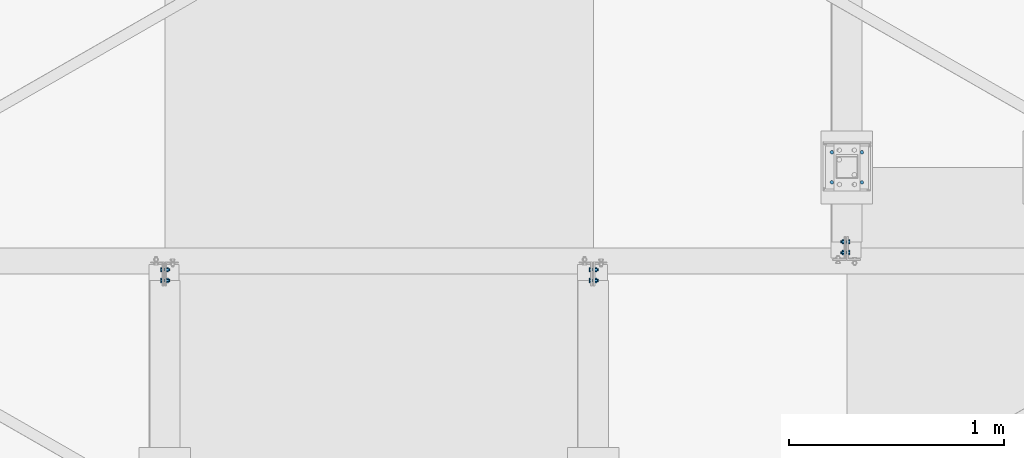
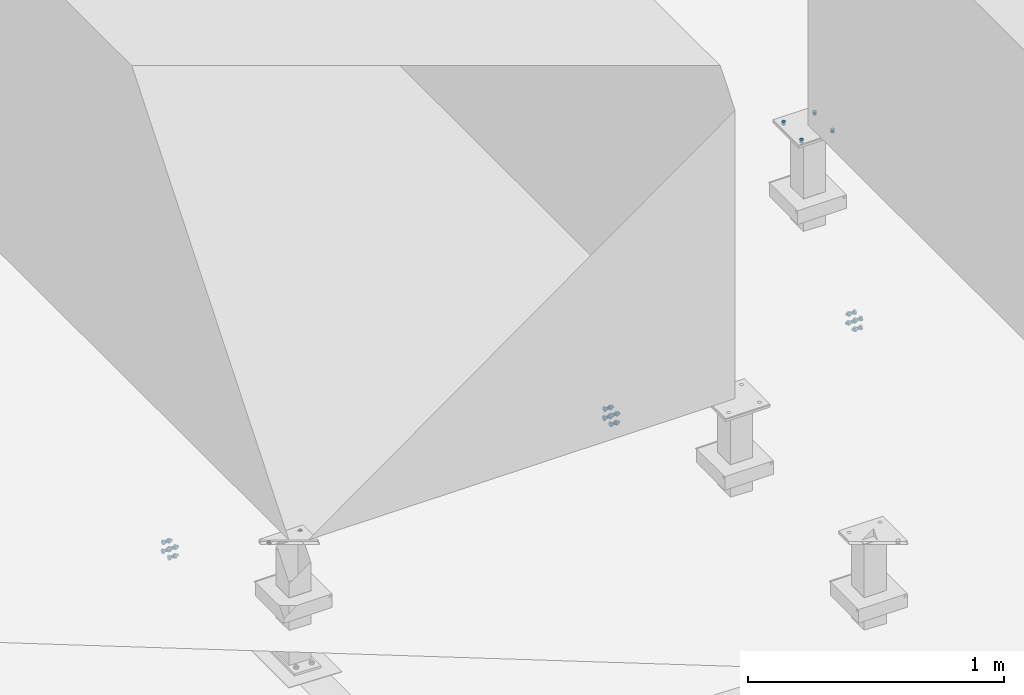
# One storey, part 383 of 3134: 4 mechanical fasteners, 4 elements without a shape of their own.
"""IFC2X3 building model written with IfcOpenShell, lengths in millimetres."""

from ifc_helpers import new_model, si_unit, frame, origin_with_axes, place, context, subcontext, project, spatial, faceted_brep, source, transform, mapped, material, type_object, element, aggregate, save


model = new_model("IFC2X3")

# Units and contexts
model_context = context("Model", 3, precision=1e-05, world=origin_with_axes())
body_context = subcontext(model_context, "Body", "Model", "MODEL_VIEW")
ifc_project = project(units=[si_unit("LENGTHUNIT", "METRE", prefix="MILLI"), si_unit("AREAUNIT", "SQUARE_METRE"), si_unit("VOLUMEUNIT", "CUBIC_METRE"), si_unit("MASSUNIT", "GRAM", prefix="KILO"), si_unit("TIMEUNIT", "SECOND"), si_unit("PLANEANGLEUNIT", "RADIAN"), si_unit("SOLIDANGLEUNIT", "STERADIAN"), si_unit("THERMODYNAMICTEMPERATUREUNIT", "DEGREE_CELSIUS"), si_unit("LUMINOUSINTENSITYUNIT", "LUMEN")], contexts=[model_context])

# Site, building, storey
site_placement = place(None, origin_with_axes())
site = spatial("IfcSite", under=ifc_project, at=site_placement, CompositionType="ELEMENT")
building_placement = place(site_placement, origin_with_axes())
building = spatial("IfcBuilding", under=site, at=building_placement, Name="Undefined", CompositionType="ELEMENT")
storey_placement = place(building_placement, origin_with_axes())
storey = spatial("IfcBuildingStorey", under=building, at=storey_placement, Name="Undefined", CompositionType="ELEMENT", Elevation=0.0)

# Assembly, mechanical fastener
assembly_1_placement = place(storey_placement, origin_with_axes())
assembly_1 = element("IfcElementAssembly", 1, at=assembly_1_placement, inside=storey, AssemblyPlace="NOTDEFINED", PredefinedType="RIGID_FRAME")
ifc_material = material(Name="8.8")
mechanical_fastener_type = type_object("IfcMechanicalFastenerType", Name="Bolt assembly")
shared_shape_1 = source(origin_with_axes(), body_context, "Body", "Brep", [
    faceted_brep([(10.9696551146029, -14.250187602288, 0.0), (5.48482755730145, -14.250187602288, 9.5), (-5.48482755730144, -14.250187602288, 9.5), (-10.9696551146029, -14.250187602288, 1.34339530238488e-15), (-5.48482755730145, -14.250187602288, -9.5), (5.48482755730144, -14.250187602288, -9.50000000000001), (5.48482755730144, -6.25018760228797, -9.50000000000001), (-5.48482755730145, -6.25018760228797, -9.5), (-10.9696551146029, -6.25018760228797, 1.34339530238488e-15), (-5.48482755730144, -6.25018760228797, 9.5), (5.48482755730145, -6.25018760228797, 9.5), (10.9696551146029, -6.25018760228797, 0.0), (6.0, -6.25018760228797, 0.0), (5.19615242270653, -6.25018760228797, 3.00000000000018), (2.99999999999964, -6.25018760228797, 5.19615242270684), (-6.21801588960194e-13, -6.25018760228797, 6.0), (-3.00000000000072, -6.25018760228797, 5.19615242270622), (-5.19615242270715, -6.25018760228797, 2.9999999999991), (-6.0, -6.25018760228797, -1.24360317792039e-12), (-5.19615242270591, -6.25018760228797, -3.00000000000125), (-2.99999999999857, -6.25018760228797, -5.19615242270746), (1.85874342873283e-12, -6.25018760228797, -6.0), (3.00000000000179, -6.25018760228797, -5.1961524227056), (5.19615242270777, -6.25018760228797, -2.99999999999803), (5.19615242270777, 28.749812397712, -2.99999999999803), (3.00000000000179, 28.749812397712, -5.1961524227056), (1.85874342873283e-12, 28.749812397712, -6.0), (-2.99999999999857, 28.749812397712, -5.19615242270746), (-5.19615242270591, 28.749812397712, -3.00000000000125), (-6.0, 28.749812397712, -1.24360317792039e-12), (-5.19615242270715, 28.749812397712, 2.9999999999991), (-3.00000000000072, 28.749812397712, 5.19615242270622), (-6.21801588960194e-13, 28.749812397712, 6.0), (2.99999999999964, 28.749812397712, 5.19615242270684), (5.19615242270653, 28.749812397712, 3.00000000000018), (6.0, 28.749812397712, 0.0), (10.9696551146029, 11.2575524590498, 0.0), (5.48482755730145, 11.2575524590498, 9.5), (-5.48482755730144, 11.2575524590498, 9.5), (-10.9696551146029, 11.2575524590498, 1.34339530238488e-15), (-5.48482755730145, 11.2575524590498, -9.5), (5.48482755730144, 11.2575524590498, -9.50000000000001), (5.48482755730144, 21.2575524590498, -9.50000000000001), (-5.48482755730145, 21.2575524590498, -9.5), (-10.9696551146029, 21.2575524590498, 1.34339530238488e-15), (-5.48482755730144, 21.2575524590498, 9.5), (5.48482755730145, 21.2575524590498, 9.5), (10.9696551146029, 21.2575524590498, 0.0)], [[[0, 1, 2, 3, 4, 5]], [[6, 7, 8, 9, 10, 11]], [[0, 11, 10, 1]], [[1, 10, 9, 2]], [[2, 9, 8, 3]], [[3, 8, 7, 4]], [[4, 7, 6, 5]], [[5, 6, 11, 0]], [[12, 13, 14, 15, 16, 17, 18, 19, 20, 21, 22, 23]], [[24, 25, 26, 27, 28, 29, 30, 31, 32, 33, 34, 35]], [[12, 35, 34, 13]], [[13, 34, 33, 14]], [[14, 33, 32, 15]], [[15, 32, 31, 16]], [[16, 31, 30, 17]], [[17, 30, 29, 18]], [[18, 29, 28, 19]], [[19, 28, 27, 20]], [[20, 27, 26, 21]], [[21, 26, 25, 22]], [[22, 25, 24, 23]], [[23, 24, 35, 12]], [[36, 37, 38, 39, 40, 41]], [[42, 43, 44, 45, 46, 47]], [[36, 47, 46, 37]], [[37, 46, 45, 38]], [[38, 45, 44, 39]], [[39, 44, 43, 40]], [[40, 43, 42, 41]], [[41, 42, 47, 36]]]),
    faceted_brep([(7.0, 5.15755245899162, 0.0), (6.06217782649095, 5.15755245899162, 3.50000000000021), (3.49999999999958, 5.15755245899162, 6.06217782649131), (-7.25435187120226e-13, 5.15755245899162, 7.0), (-3.50000000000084, 5.15755245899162, 6.06217782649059), (-6.06217782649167, 5.15755245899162, 3.49999999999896), (-7.0, 5.15755245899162, -1.45087037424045e-12), (-6.06217782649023, 5.15755245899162, -3.50000000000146), (-3.49999999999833, 5.15755245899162, -6.06217782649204), (2.1685340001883e-12, 5.15755245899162, -7.0), (3.50000000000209, 5.15755245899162, -6.06217782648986), (6.0621778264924, 5.15755245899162, -3.4999999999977), (6.0621778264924, 11.2575524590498, -3.4999999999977), (3.50000000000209, 11.2575524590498, -6.06217782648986), (2.1685340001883e-12, 11.2575524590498, -7.0), (-3.49999999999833, 11.2575524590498, -6.06217782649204), (-6.06217782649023, 11.2575524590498, -3.50000000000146), (-7.0, 11.2575524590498, -1.45087037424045e-12), (-6.06217782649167, 11.2575524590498, 3.49999999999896), (-3.50000000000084, 11.2575524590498, 6.06217782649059), (-7.25435187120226e-13, 11.2575524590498, 7.0), (3.49999999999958, 11.2575524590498, 6.06217782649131), (6.06217782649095, 11.2575524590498, 3.50000000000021), (7.0, 11.2575524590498, 0.0), (7.0, -6.15018760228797, 0.0), (6.06217782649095, -6.15018760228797, 3.50000000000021), (3.49999999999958, -6.15018760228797, 6.06217782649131), (-7.25435187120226e-13, -6.15018760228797, 7.0), (-3.50000000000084, -6.15018760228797, 6.06217782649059), (-6.06217782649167, -6.15018760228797, 3.49999999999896), (-7.0, -6.15018760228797, -1.45087037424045e-12), (-6.06217782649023, -6.15018760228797, -3.50000000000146), (-3.49999999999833, -6.15018760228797, -6.06217782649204), (2.1685340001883e-12, -6.15018760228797, -7.0), (3.50000000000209, -6.15018760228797, -6.06217782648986), (6.0621778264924, -6.15018760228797, -3.4999999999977), (6.0621778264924, -0.150187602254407, -3.4999999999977), (3.50000000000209, -0.150187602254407, -6.06217782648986), (2.1685340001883e-12, -0.150187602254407, -7.0), (-3.49999999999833, -0.150187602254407, -6.06217782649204), (-6.06217782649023, -0.150187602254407, -3.50000000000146), (-7.0, -0.150187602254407, -1.45087037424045e-12), (-6.06217782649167, -0.150187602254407, 3.49999999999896), (-3.50000000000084, -0.150187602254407, 6.06217782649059), (-7.25435187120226e-13, -0.150187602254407, 7.0), (3.49999999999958, -0.150187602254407, 6.06217782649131), (6.06217782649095, -0.150187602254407, 3.50000000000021), (7.0, -0.150187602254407, 0.0), (7.0, -0.249172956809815, 0.0), (6.06217782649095, -0.249172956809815, 3.50000000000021), (3.49999999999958, -0.249172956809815, 6.06217782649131), (-7.25435187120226e-13, -0.249172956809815, 7.0), (-3.50000000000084, -0.249172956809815, 6.06217782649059), (-6.06217782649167, -0.249172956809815, 3.49999999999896), (-7.0, -0.249172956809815, -1.45087037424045e-12), (-6.06217782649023, -0.249172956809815, -3.50000000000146), (-3.49999999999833, -0.249172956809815, -6.06217782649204), (2.1685340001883e-12, -0.249172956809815, -7.0), (3.50000000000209, -0.249172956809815, -6.06217782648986), (6.0621778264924, -0.249172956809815, -3.4999999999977), (6.0621778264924, 5.25082704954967, -3.4999999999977), (3.50000000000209, 5.25082704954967, -6.06217782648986), (2.1685340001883e-12, 5.25082704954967, -7.0), (-3.49999999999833, 5.25082704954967, -6.06217782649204), (-6.06217782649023, 5.25082704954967, -3.50000000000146), (-7.0, 5.25082704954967, -1.45087037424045e-12), (-6.06217782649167, 5.25082704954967, 3.49999999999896), (-3.50000000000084, 5.25082704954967, 6.06217782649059), (-7.25435187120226e-13, 5.25082704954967, 7.0), (3.49999999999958, 5.25082704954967, 6.06217782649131), (6.06217782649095, 5.25082704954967, 3.50000000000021), (7.0, 5.25082704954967, 0.0)], [[[0, 1, 2, 3, 4, 5, 6, 7, 8, 9, 10, 11]], [[12, 13, 14, 15, 16, 17, 18, 19, 20, 21, 22, 23]], [[0, 23, 22, 1]], [[1, 22, 21, 2]], [[2, 21, 20, 3]], [[3, 20, 19, 4]], [[4, 19, 18, 5]], [[5, 18, 17, 6]], [[6, 17, 16, 7]], [[7, 16, 15, 8]], [[8, 15, 14, 9]], [[9, 14, 13, 10]], [[10, 13, 12, 11]], [[11, 12, 23, 0]], [[24, 25, 26, 27, 28, 29, 30, 31, 32, 33, 34, 35]], [[36, 37, 38, 39, 40, 41, 42, 43, 44, 45, 46, 47]], [[24, 47, 46, 25]], [[25, 46, 45, 26]], [[26, 45, 44, 27]], [[27, 44, 43, 28]], [[28, 43, 42, 29]], [[29, 42, 41, 30]], [[30, 41, 40, 31]], [[31, 40, 39, 32]], [[32, 39, 38, 33]], [[33, 38, 37, 34]], [[34, 37, 36, 35]], [[35, 36, 47, 24]], [[48, 49, 50, 51, 52, 53, 54, 55, 56, 57, 58, 59]], [[60, 61, 62, 63, 64, 65, 66, 67, 68, 69, 70, 71]], [[48, 71, 70, 49]], [[49, 70, 69, 50]], [[50, 69, 68, 51]], [[51, 68, 67, 52]], [[52, 67, 66, 53]], [[53, 66, 65, 54]], [[54, 65, 64, 55]], [[55, 64, 63, 56]], [[56, 63, 62, 57]], [[57, 62, 61, 58]], [[58, 61, 60, 59]], [[59, 60, 71, 48]]]),
])
mechanical_fastener_1_placement = place(assembly_1_placement, frame((77004.0608079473, 21923.34, 3772.66212573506), z_axis=(0.0309396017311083, 0.0, 0.999521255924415), x_axis=(0.0, 1.0, 0.0)))
mechanical_fastener_1 = element("IfcMechanicalFastener", 2, at=mechanical_fastener_1_placement, type_object=mechanical_fastener_type, material=ifc_material, Name="Bolt assembly", NominalDiameter=12.0, NominalLength=35.0, context=body_context, shape_type="MappedRepresentation", body=[
    mapped(shared_shape_1, transform((0.0, 0.0, -21.0))),
    mapped(shared_shape_1, transform((50.0, -1.01863406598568e-10, -20.9999999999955))),
    mapped(shared_shape_1, transform((0.0, 0.0, 21.0))),
    mapped(shared_shape_1, transform((50.0, 1.30967237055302e-10, 20.9999999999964))),
])
aggregate(assembly_1, [mechanical_fastener_1])

assembly_2_placement = place(storey_placement, origin_with_axes())
assembly_2 = element("IfcElementAssembly", 3, at=assembly_2_placement, inside=storey, AssemblyPlace="NOTDEFINED", PredefinedType="RIGID_FRAME")
shared_shape_2 = source(origin_with_axes(), body_context, "Body", "Brep", [
    faceted_brep([(10.9696551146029, -19.2575524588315, 0.0), (5.48482755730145, -19.2575524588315, 9.5), (-5.48482755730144, -19.2575524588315, 9.5), (-10.9696551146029, -19.2575524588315, 1.34339530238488e-15), (-5.48482755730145, -19.2575524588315, -9.5), (5.48482755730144, -19.2575524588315, -9.50000000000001), (5.48482755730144, -11.2575524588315, -9.50000000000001), (-5.48482755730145, -11.2575524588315, -9.5), (-10.9696551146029, -11.2575524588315, 1.34339530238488e-15), (-5.48482755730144, -11.2575524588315, 9.5), (5.48482755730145, -11.2575524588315, 9.5), (10.9696551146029, -11.2575524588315, 0.0), (6.0, -11.2575524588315, 0.0), (5.19615242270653, -11.2575524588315, 3.00000000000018), (2.99999999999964, -11.2575524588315, 5.19615242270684), (-6.21801588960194e-13, -11.2575524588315, 6.0), (-3.00000000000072, -11.2575524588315, 5.19615242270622), (-5.19615242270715, -11.2575524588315, 2.9999999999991), (-6.0, -11.2575524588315, -1.24360317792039e-12), (-5.19615242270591, -11.2575524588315, -3.00000000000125), (-2.99999999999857, -11.2575524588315, -5.19615242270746), (1.85874342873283e-12, -11.2575524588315, -6.0), (3.00000000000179, -11.2575524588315, -5.1961524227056), (5.19615242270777, -11.2575524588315, -2.99999999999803), (5.19615242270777, 23.7424475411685, -2.99999999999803), (3.00000000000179, 23.7424475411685, -5.1961524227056), (1.85874342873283e-12, 23.7424475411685, -6.0), (-2.99999999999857, 23.7424475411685, -5.19615242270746), (-5.19615242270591, 23.7424475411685, -3.00000000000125), (-6.0, 23.7424475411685, -1.24360317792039e-12), (-5.19615242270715, 23.7424475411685, 2.9999999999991), (-3.00000000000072, 23.7424475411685, 5.19615242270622), (-6.21801588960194e-13, 23.7424475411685, 6.0), (2.99999999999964, 23.7424475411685, 5.19615242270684), (5.19615242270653, 23.7424475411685, 3.00000000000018), (6.0, 23.7424475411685, 0.0), (10.9696551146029, 6.25018760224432, 0.0), (5.48482755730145, 6.25018760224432, 9.5), (-5.48482755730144, 6.25018760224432, 9.5), (-10.9696551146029, 6.25018760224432, 1.34339530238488e-15), (-5.48482755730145, 6.25018760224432, -9.5), (5.48482755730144, 6.25018760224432, -9.50000000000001), (5.48482755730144, 16.2501876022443, -9.50000000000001), (-5.48482755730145, 16.2501876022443, -9.5), (-10.9696551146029, 16.2501876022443, 1.34339530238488e-15), (-5.48482755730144, 16.2501876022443, 9.5), (5.48482755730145, 16.2501876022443, 9.5), (10.9696551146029, 16.2501876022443, 0.0)], [[[0, 1, 2, 3, 4, 5]], [[6, 7, 8, 9, 10, 11]], [[0, 11, 10, 1]], [[1, 10, 9, 2]], [[2, 9, 8, 3]], [[3, 8, 7, 4]], [[4, 7, 6, 5]], [[5, 6, 11, 0]], [[12, 13, 14, 15, 16, 17, 18, 19, 20, 21, 22, 23]], [[24, 25, 26, 27, 28, 29, 30, 31, 32, 33, 34, 35]], [[12, 35, 34, 13]], [[13, 34, 33, 14]], [[14, 33, 32, 15]], [[15, 32, 31, 16]], [[16, 31, 30, 17]], [[17, 30, 29, 18]], [[18, 29, 28, 19]], [[19, 28, 27, 20]], [[20, 27, 26, 21]], [[21, 26, 25, 22]], [[22, 25, 24, 23]], [[23, 24, 35, 12]], [[36, 37, 38, 39, 40, 41]], [[42, 43, 44, 45, 46, 47]], [[36, 47, 46, 37]], [[37, 46, 45, 38]], [[38, 45, 44, 39]], [[39, 44, 43, 40]], [[40, 43, 42, 41]], [[41, 42, 47, 36]]]),
    faceted_brep([(7.0, -11.1575524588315, 0.0), (6.06217782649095, -11.1575524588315, 3.50000000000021), (3.49999999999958, -11.1575524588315, 6.06217782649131), (-7.25435187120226e-13, -11.1575524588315, 7.0), (-3.50000000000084, -11.1575524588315, 6.06217782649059), (-6.06217782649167, -11.1575524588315, 3.49999999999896), (-7.0, -11.1575524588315, -1.45087037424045e-12), (-6.06217782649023, -11.1575524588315, -3.50000000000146), (-3.49999999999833, -11.1575524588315, -6.06217782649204), (2.1685340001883e-12, -11.1575524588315, -7.0), (3.50000000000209, -11.1575524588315, -6.06217782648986), (6.0621778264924, -11.1575524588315, -3.4999999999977), (6.0621778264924, -5.15755245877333, -3.4999999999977), (3.50000000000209, -5.15755245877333, -6.06217782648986), (2.1685340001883e-12, -5.15755245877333, -7.0), (-3.49999999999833, -5.15755245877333, -6.06217782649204), (-6.06217782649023, -5.15755245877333, -3.50000000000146), (-7.0, -5.15755245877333, -1.45087037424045e-12), (-6.06217782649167, -5.15755245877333, 3.49999999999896), (-3.50000000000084, -5.15755245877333, 6.06217782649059), (-7.25435187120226e-13, -5.15755245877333, 7.0), (3.49999999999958, -5.15755245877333, 6.06217782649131), (6.06217782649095, -5.15755245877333, 3.50000000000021), (7.0, -5.15755245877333, 0.0), (7.0, 0.150187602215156, 0.0), (6.06217782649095, 0.150187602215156, 3.50000000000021), (3.49999999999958, 0.150187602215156, 6.06217782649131), (-7.25435187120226e-13, 0.150187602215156, 7.0), (-3.50000000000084, 0.150187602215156, 6.06217782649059), (-6.06217782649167, 0.150187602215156, 3.49999999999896), (-7.0, 0.150187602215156, -1.45087037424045e-12), (-6.06217782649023, 0.150187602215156, -3.50000000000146), (-3.49999999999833, 0.150187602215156, -6.06217782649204), (2.1685340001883e-12, 0.150187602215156, -7.0), (3.50000000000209, 0.150187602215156, -6.06217782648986), (6.0621778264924, 0.150187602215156, -3.4999999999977), (6.0621778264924, 6.25018760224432, -3.4999999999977), (3.50000000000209, 6.25018760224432, -6.06217782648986), (2.1685340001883e-12, 6.25018760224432, -7.0), (-3.49999999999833, 6.25018760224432, -6.06217782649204), (-6.06217782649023, 6.25018760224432, -3.50000000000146), (-7.0, 6.25018760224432, -1.45087037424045e-12), (-6.06217782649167, 6.25018760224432, 3.49999999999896), (-3.50000000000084, 6.25018760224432, 6.06217782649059), (-7.25435187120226e-13, 6.25018760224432, 7.0), (3.49999999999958, 6.25018760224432, 6.06217782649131), (6.06217782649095, 6.25018760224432, 3.50000000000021), (7.0, 6.25018760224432, 0.0), (7.0, -5.25516609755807, 0.0), (6.06217782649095, -5.25516609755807, 3.50000000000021), (3.49999999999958, -5.25516609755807, 6.06217782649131), (-7.25435187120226e-13, -5.25516609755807, 7.0), (-3.50000000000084, -5.25516609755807, 6.06217782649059), (-6.06217782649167, -5.25516609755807, 3.49999999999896), (-7.0, -5.25516609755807, -1.45087037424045e-12), (-6.06217782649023, -5.25516609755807, -3.50000000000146), (-3.49999999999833, -5.25516609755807, -6.06217782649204), (2.1685340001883e-12, -5.25516609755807, -7.0), (3.50000000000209, -5.25516609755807, -6.06217782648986), (6.0621778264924, -5.25516609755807, -3.4999999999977), (6.0621778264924, 0.244833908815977, -3.4999999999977), (3.50000000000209, 0.244833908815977, -6.06217782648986), (2.1685340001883e-12, 0.244833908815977, -7.0), (-3.49999999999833, 0.244833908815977, -6.06217782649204), (-6.06217782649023, 0.244833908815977, -3.50000000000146), (-7.0, 0.244833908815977, -1.45087037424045e-12), (-6.06217782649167, 0.244833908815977, 3.49999999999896), (-3.50000000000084, 0.244833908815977, 6.06217782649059), (-7.25435187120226e-13, 0.244833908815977, 7.0), (3.49999999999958, 0.244833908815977, 6.06217782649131), (6.06217782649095, 0.244833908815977, 3.50000000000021), (7.0, 0.244833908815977, 0.0)], [[[0, 1, 2, 3, 4, 5, 6, 7, 8, 9, 10, 11]], [[12, 13, 14, 15, 16, 17, 18, 19, 20, 21, 22, 23]], [[0, 23, 22, 1]], [[1, 22, 21, 2]], [[2, 21, 20, 3]], [[3, 20, 19, 4]], [[4, 19, 18, 5]], [[5, 18, 17, 6]], [[6, 17, 16, 7]], [[7, 16, 15, 8]], [[8, 15, 14, 9]], [[9, 14, 13, 10]], [[10, 13, 12, 11]], [[11, 12, 23, 0]], [[24, 25, 26, 27, 28, 29, 30, 31, 32, 33, 34, 35]], [[36, 37, 38, 39, 40, 41, 42, 43, 44, 45, 46, 47]], [[24, 47, 46, 25]], [[25, 46, 45, 26]], [[26, 45, 44, 27]], [[27, 44, 43, 28]], [[28, 43, 42, 29]], [[29, 42, 41, 30]], [[30, 41, 40, 31]], [[31, 40, 39, 32]], [[32, 39, 38, 33]], [[33, 38, 37, 34]], [[34, 37, 36, 35]], [[35, 36, 47, 24]], [[48, 49, 50, 51, 52, 53, 54, 55, 56, 57, 58, 59]], [[60, 61, 62, 63, 64, 65, 66, 67, 68, 69, 70, 71]], [[48, 71, 70, 49]], [[49, 70, 69, 50]], [[50, 69, 68, 51]], [[51, 68, 67, 52]], [[52, 67, 66, 53]], [[53, 66, 65, 54]], [[54, 65, 64, 55]], [[55, 64, 63, 56]], [[56, 63, 62, 57]], [[57, 62, 61, 58]], [[58, 61, 60, 59]], [[59, 60, 71, 48]]]),
])
mechanical_fastener_2_placement = place(assembly_2_placement, frame((73830.0752897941, 21843.33, 3871.04754926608), z_axis=(0.0309396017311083, 0.0, 0.999521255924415), x_axis=(0.0, -1.0, 0.0)))
mechanical_fastener_2 = element("IfcMechanicalFastener", 4, at=mechanical_fastener_2_placement, type_object=mechanical_fastener_type, material=ifc_material, Name="Bolt assembly", NominalDiameter=12.0, NominalLength=35.0, context=body_context, shape_type="MappedRepresentation", body=[
    mapped(shared_shape_2, transform((0.0, 0.0, -21.0))),
    mapped(shared_shape_2, transform((50.0, -1.01863406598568e-10, -20.9999999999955))),
    mapped(shared_shape_2, transform((0.0, 0.0, 21.0))),
    mapped(shared_shape_2, transform((50.0, 1.30967237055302e-10, 20.9999999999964))),
])
aggregate(assembly_2, [mechanical_fastener_2])

assembly_3_placement = place(storey_placement, origin_with_axes())
assembly_3 = element("IfcElementAssembly", 5, at=assembly_3_placement, inside=storey, AssemblyPlace="NOTDEFINED", PredefinedType="RIGID_FRAME")
shared_shape_3 = source(origin_with_axes(), body_context, "Body", "Brep", [
    faceted_brep([(10.9696551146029, -19.2575524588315, 0.0), (5.48482755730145, -19.2575524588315, 9.5), (-5.48482755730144, -19.2575524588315, 9.5), (-10.9696551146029, -19.2575524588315, 1.34339530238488e-15), (-5.48482755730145, -19.2575524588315, -9.5), (5.48482755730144, -19.2575524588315, -9.50000000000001), (5.48482755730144, -11.2575524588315, -9.50000000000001), (-5.48482755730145, -11.2575524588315, -9.5), (-10.9696551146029, -11.2575524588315, 1.34339530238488e-15), (-5.48482755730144, -11.2575524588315, 9.5), (5.48482755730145, -11.2575524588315, 9.5), (10.9696551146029, -11.2575524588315, 0.0), (6.0, -11.2575524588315, 0.0), (5.19615242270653, -11.2575524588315, 3.00000000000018), (2.99999999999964, -11.2575524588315, 5.19615242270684), (-6.21801588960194e-13, -11.2575524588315, 6.0), (-3.00000000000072, -11.2575524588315, 5.19615242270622), (-5.19615242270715, -11.2575524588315, 2.9999999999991), (-6.0, -11.2575524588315, -1.24360317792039e-12), (-5.19615242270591, -11.2575524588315, -3.00000000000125), (-2.99999999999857, -11.2575524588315, -5.19615242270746), (1.85874342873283e-12, -11.2575524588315, -6.0), (3.00000000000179, -11.2575524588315, -5.1961524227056), (5.19615242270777, -11.2575524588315, -2.99999999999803), (5.19615242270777, 23.7424475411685, -2.99999999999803), (3.00000000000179, 23.7424475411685, -5.1961524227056), (1.85874342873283e-12, 23.7424475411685, -6.0), (-2.99999999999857, 23.7424475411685, -5.19615242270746), (-5.19615242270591, 23.7424475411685, -3.00000000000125), (-6.0, 23.7424475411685, -1.24360317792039e-12), (-5.19615242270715, 23.7424475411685, 2.9999999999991), (-3.00000000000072, 23.7424475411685, 5.19615242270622), (-6.21801588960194e-13, 23.7424475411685, 6.0), (2.99999999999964, 23.7424475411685, 5.19615242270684), (5.19615242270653, 23.7424475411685, 3.00000000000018), (6.0, 23.7424475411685, 0.0), (10.9696551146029, 6.25018760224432, 0.0), (5.48482755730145, 6.25018760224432, 9.5), (-5.48482755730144, 6.25018760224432, 9.5), (-10.9696551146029, 6.25018760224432, 1.34339530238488e-15), (-5.48482755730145, 6.25018760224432, -9.5), (5.48482755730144, 6.25018760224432, -9.50000000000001), (5.48482755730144, 16.2501876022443, -9.50000000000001), (-5.48482755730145, 16.2501876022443, -9.5), (-10.9696551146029, 16.2501876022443, 1.34339530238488e-15), (-5.48482755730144, 16.2501876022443, 9.5), (5.48482755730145, 16.2501876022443, 9.5), (10.9696551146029, 16.2501876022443, 0.0)], [[[0, 1, 2, 3, 4, 5]], [[6, 7, 8, 9, 10, 11]], [[0, 11, 10, 1]], [[1, 10, 9, 2]], [[2, 9, 8, 3]], [[3, 8, 7, 4]], [[4, 7, 6, 5]], [[5, 6, 11, 0]], [[12, 13, 14, 15, 16, 17, 18, 19, 20, 21, 22, 23]], [[24, 25, 26, 27, 28, 29, 30, 31, 32, 33, 34, 35]], [[12, 35, 34, 13]], [[13, 34, 33, 14]], [[14, 33, 32, 15]], [[15, 32, 31, 16]], [[16, 31, 30, 17]], [[17, 30, 29, 18]], [[18, 29, 28, 19]], [[19, 28, 27, 20]], [[20, 27, 26, 21]], [[21, 26, 25, 22]], [[22, 25, 24, 23]], [[23, 24, 35, 12]], [[36, 37, 38, 39, 40, 41]], [[42, 43, 44, 45, 46, 47]], [[36, 47, 46, 37]], [[37, 46, 45, 38]], [[38, 45, 44, 39]], [[39, 44, 43, 40]], [[40, 43, 42, 41]], [[41, 42, 47, 36]]]),
    faceted_brep([(7.0, -11.1575524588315, 0.0), (6.06217782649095, -11.1575524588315, 3.50000000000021), (3.49999999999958, -11.1575524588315, 6.06217782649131), (-7.25435187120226e-13, -11.1575524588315, 7.0), (-3.50000000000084, -11.1575524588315, 6.06217782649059), (-6.06217782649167, -11.1575524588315, 3.49999999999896), (-7.0, -11.1575524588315, -1.45087037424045e-12), (-6.06217782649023, -11.1575524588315, -3.50000000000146), (-3.49999999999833, -11.1575524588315, -6.06217782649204), (2.1685340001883e-12, -11.1575524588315, -7.0), (3.50000000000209, -11.1575524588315, -6.06217782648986), (6.0621778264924, -11.1575524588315, -3.4999999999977), (6.0621778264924, -5.15755245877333, -3.4999999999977), (3.50000000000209, -5.15755245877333, -6.06217782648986), (2.1685340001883e-12, -5.15755245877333, -7.0), (-3.49999999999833, -5.15755245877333, -6.06217782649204), (-6.06217782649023, -5.15755245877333, -3.50000000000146), (-7.0, -5.15755245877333, -1.45087037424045e-12), (-6.06217782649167, -5.15755245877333, 3.49999999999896), (-3.50000000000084, -5.15755245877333, 6.06217782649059), (-7.25435187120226e-13, -5.15755245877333, 7.0), (3.49999999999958, -5.15755245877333, 6.06217782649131), (6.06217782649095, -5.15755245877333, 3.50000000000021), (7.0, -5.15755245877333, 0.0), (7.0, 0.150187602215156, 0.0), (6.06217782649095, 0.150187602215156, 3.50000000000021), (3.49999999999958, 0.150187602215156, 6.06217782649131), (-7.25435187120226e-13, 0.150187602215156, 7.0), (-3.50000000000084, 0.150187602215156, 6.06217782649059), (-6.06217782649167, 0.150187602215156, 3.49999999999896), (-7.0, 0.150187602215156, -1.45087037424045e-12), (-6.06217782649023, 0.150187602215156, -3.50000000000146), (-3.49999999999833, 0.150187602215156, -6.06217782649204), (2.1685340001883e-12, 0.150187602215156, -7.0), (3.50000000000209, 0.150187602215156, -6.06217782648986), (6.0621778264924, 0.150187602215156, -3.4999999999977), (6.0621778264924, 6.25018760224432, -3.4999999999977), (3.50000000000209, 6.25018760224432, -6.06217782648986), (2.1685340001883e-12, 6.25018760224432, -7.0), (-3.49999999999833, 6.25018760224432, -6.06217782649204), (-6.06217782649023, 6.25018760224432, -3.50000000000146), (-7.0, 6.25018760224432, -1.45087037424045e-12), (-6.06217782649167, 6.25018760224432, 3.49999999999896), (-3.50000000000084, 6.25018760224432, 6.06217782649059), (-7.25435187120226e-13, 6.25018760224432, 7.0), (3.49999999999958, 6.25018760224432, 6.06217782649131), (6.06217782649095, 6.25018760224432, 3.50000000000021), (7.0, 6.25018760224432, 0.0), (7.0, -5.2523749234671, 0.0), (6.06217782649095, -5.2523749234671, 3.50000000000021), (3.49999999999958, -5.2523749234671, 6.06217782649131), (-7.25435187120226e-13, -5.2523749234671, 7.0), (-3.50000000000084, -5.2523749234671, 6.06217782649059), (-6.06217782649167, -5.2523749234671, 3.49999999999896), (-7.0, -5.2523749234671, -1.45087037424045e-12), (-6.06217782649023, -5.2523749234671, -3.50000000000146), (-3.49999999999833, -5.2523749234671, -6.06217782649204), (2.1685340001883e-12, -5.2523749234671, -7.0), (3.50000000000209, -5.2523749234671, -6.06217782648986), (6.0621778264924, -5.2523749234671, -3.4999999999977), (6.0621778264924, 0.247625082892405, -3.4999999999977), (3.50000000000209, 0.247625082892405, -6.06217782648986), (2.1685340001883e-12, 0.247625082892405, -7.0), (-3.49999999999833, 0.247625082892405, -6.06217782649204), (-6.06217782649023, 0.247625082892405, -3.50000000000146), (-7.0, 0.247625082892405, -1.45087037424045e-12), (-6.06217782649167, 0.247625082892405, 3.49999999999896), (-3.50000000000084, 0.247625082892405, 6.06217782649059), (-7.25435187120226e-13, 0.247625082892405, 7.0), (3.49999999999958, 0.247625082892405, 6.06217782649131), (6.06217782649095, 0.247625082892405, 3.50000000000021), (7.0, 0.247625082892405, 0.0)], [[[0, 1, 2, 3, 4, 5, 6, 7, 8, 9, 10, 11]], [[12, 13, 14, 15, 16, 17, 18, 19, 20, 21, 22, 23]], [[0, 23, 22, 1]], [[1, 22, 21, 2]], [[2, 21, 20, 3]], [[3, 20, 19, 4]], [[4, 19, 18, 5]], [[5, 18, 17, 6]], [[6, 17, 16, 7]], [[7, 16, 15, 8]], [[8, 15, 14, 9]], [[9, 14, 13, 10]], [[10, 13, 12, 11]], [[11, 12, 23, 0]], [[24, 25, 26, 27, 28, 29, 30, 31, 32, 33, 34, 35]], [[36, 37, 38, 39, 40, 41, 42, 43, 44, 45, 46, 47]], [[24, 47, 46, 25]], [[25, 46, 45, 26]], [[26, 45, 44, 27]], [[27, 44, 43, 28]], [[28, 43, 42, 29]], [[29, 42, 41, 30]], [[30, 41, 40, 31]], [[31, 40, 39, 32]], [[32, 39, 38, 33]], [[33, 38, 37, 34]], [[34, 37, 36, 35]], [[35, 36, 47, 24]], [[48, 49, 50, 51, 52, 53, 54, 55, 56, 57, 58, 59]], [[60, 61, 62, 63, 64, 65, 66, 67, 68, 69, 70, 71]], [[48, 71, 70, 49]], [[49, 70, 69, 50]], [[50, 69, 68, 51]], [[51, 68, 67, 52]], [[52, 67, 66, 53]], [[53, 66, 65, 54]], [[54, 65, 64, 55]], [[55, 64, 63, 56]], [[56, 63, 62, 57]], [[57, 62, 61, 58]], [[58, 61, 60, 59]], [[59, 60, 71, 48]]]),
])
mechanical_fastener_3_placement = place(assembly_3_placement, frame((75824.0676006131, 21843.33, 3809.24004724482), z_axis=(0.0309396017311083, 0.0, 0.999521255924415), x_axis=(0.0, -1.0, 0.0)))
mechanical_fastener_3 = element("IfcMechanicalFastener", 6, at=mechanical_fastener_3_placement, type_object=mechanical_fastener_type, material=ifc_material, Name="Bolt assembly", NominalDiameter=12.0, NominalLength=35.0, context=body_context, shape_type="MappedRepresentation", body=[
    mapped(shared_shape_3, transform((0.0, 0.0, -21.0))),
    mapped(shared_shape_3, transform((50.0, -1.01863406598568e-10, -20.9999999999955))),
    mapped(shared_shape_3, transform((0.0, 0.0, 21.0))),
    mapped(shared_shape_3, transform((50.0, 1.30967237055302e-10, 20.9999999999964))),
])
aggregate(assembly_3, [mechanical_fastener_3])

assembly_4_placement = place(storey_placement, origin_with_axes())
assembly_4 = element("IfcElementAssembly", 7, at=assembly_4_placement, inside=storey, AssemblyPlace="NOTDEFINED", PredefinedType="RIGID_FRAME")
shared_shape_4 = source(origin_with_axes(), body_context, "Body", "Brep", [
    faceted_brep([(7.0, -4.90000000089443, 0.0), (6.06217782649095, -4.90000000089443, 3.50000000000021), (3.49999999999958, -4.90000000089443, 6.06217782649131), (-7.25435187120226e-13, -4.90000000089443, 7.0), (-3.50000000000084, -4.90000000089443, 6.06217782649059), (-6.06217782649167, -4.90000000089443, 3.49999999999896), (-7.0, -4.90000000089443, -1.45087037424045e-12), (-6.06217782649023, -4.90000000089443, -3.50000000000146), (-3.49999999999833, -4.90000000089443, -6.06217782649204), (2.1685340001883e-12, -4.90000000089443, -7.0), (3.50000000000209, -4.90000000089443, -6.06217782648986), (6.0621778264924, -4.90000000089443, -3.4999999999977), (6.0621778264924, 0.0999999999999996, -3.4999999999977), (3.50000000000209, 0.0999999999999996, -6.06217782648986), (2.1685340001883e-12, 0.0999999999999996, -7.0), (-3.49999999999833, 0.0999999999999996, -6.06217782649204), (-6.06217782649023, 0.0999999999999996, -3.50000000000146), (-7.0, 0.0999999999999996, -1.45087037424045e-12), (-6.06217782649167, 0.0999999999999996, 3.49999999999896), (-3.50000000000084, 0.0999999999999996, 6.06217782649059), (-7.25435187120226e-13, 0.0999999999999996, 7.0), (3.49999999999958, 0.0999999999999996, 6.06217782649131), (6.06217782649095, 0.0999999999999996, 3.50000000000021), (7.0, 0.0999999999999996, 0.0), (7.0, -0.1, 0.0), (6.06217782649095, -0.1, 3.50000000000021), (3.49999999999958, -0.1, 6.06217782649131), (-7.25435187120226e-13, -0.1, 7.0), (-3.50000000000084, -0.1, 6.06217782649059), (-6.06217782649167, -0.1, 3.49999999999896), (-7.0, -0.1, -1.45087037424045e-12), (-6.06217782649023, -0.1, -3.50000000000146), (-3.49999999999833, -0.1, -6.06217782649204), (2.1685340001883e-12, -0.1, -7.0), (3.50000000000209, -0.1, -6.06217782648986), (6.0621778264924, -0.1, -3.4999999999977), (6.0621778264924, 10.0, -3.4999999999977), (3.50000000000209, 10.0, -6.06217782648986), (2.1685340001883e-12, 10.0, -7.0), (-3.49999999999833, 10.0, -6.06217782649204), (-6.06217782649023, 10.0, -3.50000000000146), (-7.0, 10.0, -1.45087037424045e-12), (-6.06217782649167, 10.0, 3.49999999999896), (-3.50000000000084, 10.0, 6.06217782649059), (-7.25435187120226e-13, 10.0, 7.0), (3.49999999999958, 10.0, 6.06217782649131), (6.06217782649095, 10.0, 3.50000000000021), (7.0, 10.0, 0.0)], [[[0, 1, 2, 3, 4, 5, 6, 7, 8, 9, 10, 11]], [[12, 13, 14, 15, 16, 17, 18, 19, 20, 21, 22, 23]], [[0, 23, 22, 1]], [[1, 22, 21, 2]], [[2, 21, 20, 3]], [[3, 20, 19, 4]], [[4, 19, 18, 5]], [[5, 18, 17, 6]], [[6, 17, 16, 7]], [[7, 16, 15, 8]], [[8, 15, 14, 9]], [[9, 14, 13, 10]], [[10, 13, 12, 11]], [[11, 12, 23, 0]], [[24, 25, 26, 27, 28, 29, 30, 31, 32, 33, 34, 35]], [[36, 37, 38, 39, 40, 41, 42, 43, 44, 45, 46, 47]], [[24, 47, 46, 25]], [[25, 46, 45, 26]], [[26, 45, 44, 27]], [[27, 44, 43, 28]], [[28, 43, 42, 29]], [[29, 42, 41, 30]], [[30, 41, 40, 31]], [[31, 40, 39, 32]], [[32, 39, 38, 33]], [[33, 38, 37, 34]], [[34, 37, 36, 35]], [[35, 36, 47, 24]]]),
])
mechanical_fastener_4_placement = place(assembly_4_placement, frame((77004.0, 22250.0, 4475.0), z_axis=(-1.0, 0.0, 0.0), x_axis=(0.0, 1.0, 0.0)))
mechanical_fastener_4 = element("IfcMechanicalFastener", 8, at=mechanical_fastener_4_placement, type_object=mechanical_fastener_type, material=ifc_material, Name="Bolt assembly", NominalDiameter=12.0, NominalLength=15.0, context=body_context, shape_type="MappedRepresentation", body=[
    mapped(shared_shape_4, transform((0.0, 0.0, -70.0))),
    mapped(shared_shape_4, transform((140.0, 0.0, -70.0))),
    mapped(shared_shape_4, transform((0.0, 0.0, 70.0))),
    mapped(shared_shape_4, transform((140.0, 0.0, 70.0))),
])
aggregate(assembly_4, [mechanical_fastener_4])

save(model, "model.ifc")
